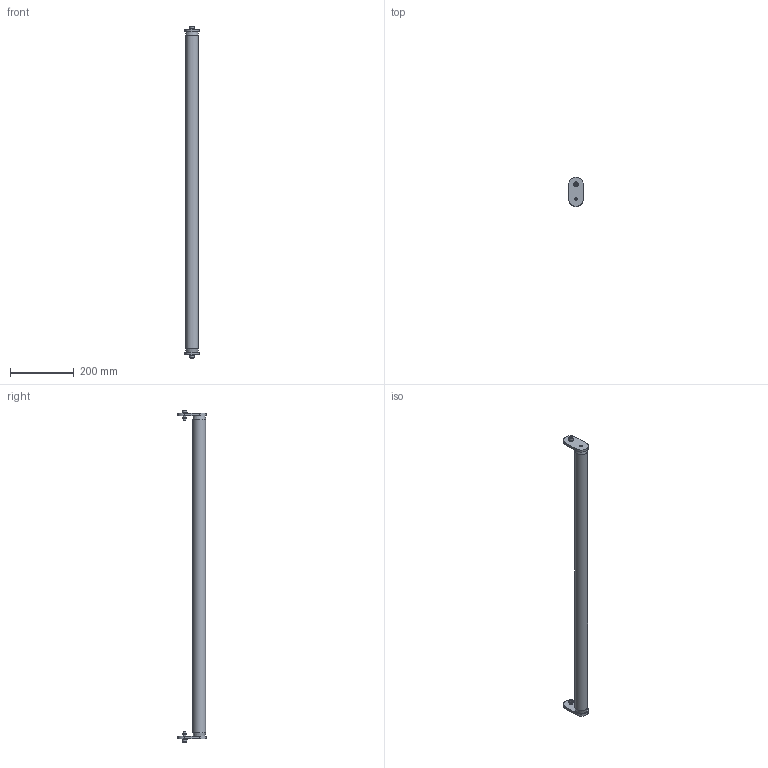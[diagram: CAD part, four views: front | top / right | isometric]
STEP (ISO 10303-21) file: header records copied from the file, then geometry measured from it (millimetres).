
FILE_DESCRIPTION (( 'STEP AP214' ), '1' );
FILE_NAME ('983-004-1000.STEP', '2020-11-23T10:24:02', ( '' ), ( '' ), 'SwSTEP 2.0', 'SolidWorks 2020', '' );
FILE_SCHEMA (( 'AUTOMOTIVE_DESIGN' ));
Length unit declared in the file: millimetre
Products named in the file (8): 983-003; 982-010-1000; 982-009; 910-011; 983-004-1000; CHC THE_910-053H; RONDELLE_910-111; CHC M8X25 + RP8
Assembly tree (8 placements, depth 4):
  983-004-1000
    983-003  x2
      982-009
      910-011
      CHC M8X25 + RP8
        CHC THE_910-053H
        RONDELLE_910-111
    982-010-1000
Bounding box: 45 x 91 x 1045.2 mm (x, y, z)
Volume: 1329916.4 mm3; surface area: 152531.9 mm2
Topology: 9 solids, 9 shells, 119 faces, 261 edges, 166 vertices
Faces by surface type: plane 60, cylinder 33, cone 22, torus 4
Full cylindrical faces by diameter (mm): 6 x2, 6.8 x2, 7.98 x2, 8 x4, 8.4 x2, 8.5 x4, 13 x2, 16 x2, 40 x1
Entity records: 2038 total; most frequent: CARTESIAN_POINT 389, DIRECTION 312, ORIENTED_EDGE 228, AXIS2_PLACEMENT_3D 131, EDGE_CURVE 114, EDGE_LOOP 96, VERTEX_POINT 84, FACE_OUTER_BOUND 78
